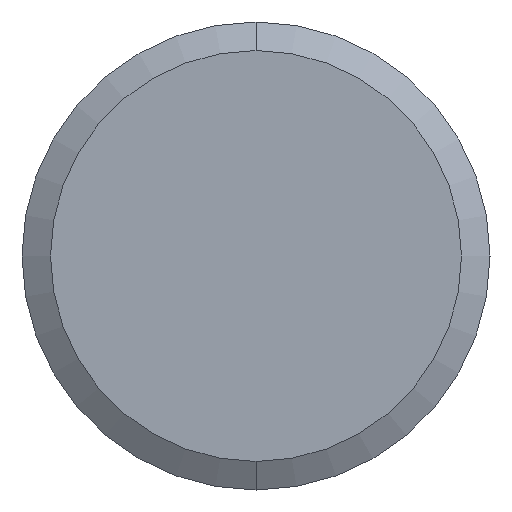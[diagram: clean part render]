
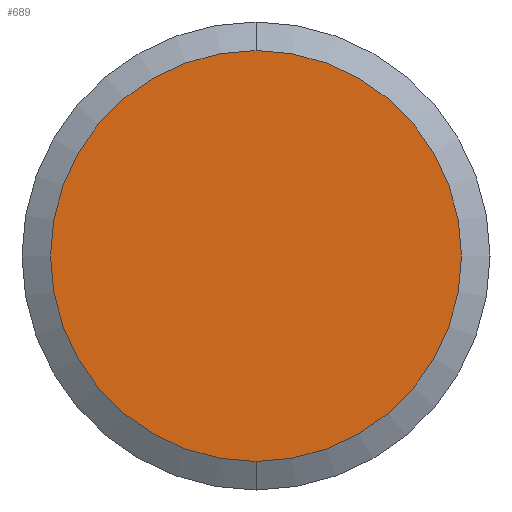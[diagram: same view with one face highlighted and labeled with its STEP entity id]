
A CAD part, front view. The second image highlights one B-rep face of the part: STEP entity #689.
In plain terms, the highlighted planar face has unit normal (0, -1, 0).
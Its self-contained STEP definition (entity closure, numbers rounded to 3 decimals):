
#12 = CARTESIAN_POINT ( 'NONE',  ( 0., -7.25, -3.6 ) ) ;
#45 = EDGE_CURVE ( 'NONE', #159, #291, #808, .T. ) ;
#159 = VERTEX_POINT ( 'NONE', #12 ) ;
#212 = DIRECTION ( 'NONE',  ( 0., -1., 0. ) ) ;
#236 = DIRECTION ( 'NONE',  ( 0., 0., 1. ) ) ;
#274 = CARTESIAN_POINT ( 'NONE',  ( 0., -7.25, 0. ) ) ;
#279 = ORIENTED_EDGE ( 'NONE', *, *, #45, .T. ) ;
#291 = VERTEX_POINT ( 'NONE', #809 ) ;
#311 = AXIS2_PLACEMENT_3D ( 'NONE', #274, #344, #722 ) ;
#344 = DIRECTION ( 'NONE',  ( 0., -1., 0. ) ) ;
#358 = CARTESIAN_POINT ( 'NONE',  ( 0., -7.25, 0. ) ) ;
#359 = EDGE_LOOP ( 'NONE', ( #279, #774 ) ) ;
#394 = AXIS2_PLACEMENT_3D ( 'NONE', #358, #212, #420 ) ;
#420 = DIRECTION ( 'NONE',  ( 0., 0., 1. ) ) ;
#422 = DIRECTION ( 'NONE',  ( 0., 1., 0. ) ) ;
#425 = CARTESIAN_POINT ( 'NONE',  ( 0., -7.25, 0. ) ) ;
#541 = AXIS2_PLACEMENT_3D ( 'NONE', #425, #422, #236 ) ;
#557 = FACE_OUTER_BOUND ( 'NONE', #359, .T. ) ;
#624 = EDGE_CURVE ( 'NONE', #291, #159, #662, .T. ) ;
#662 = CIRCLE ( 'NONE', #311, 3.6 ) ;
#689 = ADVANCED_FACE ( 'NONE', ( #557 ), #807, .F. ) ;
#722 = DIRECTION ( 'NONE',  ( 0., 0., 1. ) ) ;
#774 = ORIENTED_EDGE ( 'NONE', *, *, #624, .T. ) ;
#807 = PLANE ( 'NONE',  #541 ) ;
#808 = CIRCLE ( 'NONE', #394, 3.6 ) ;
#809 = CARTESIAN_POINT ( 'NONE',  ( 0., -7.25, 3.6 ) ) ;
